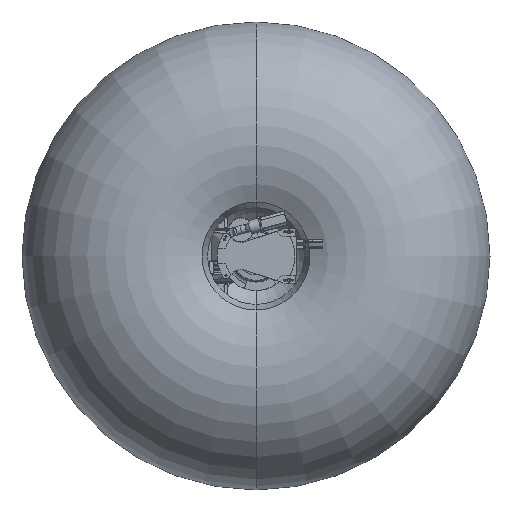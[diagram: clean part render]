
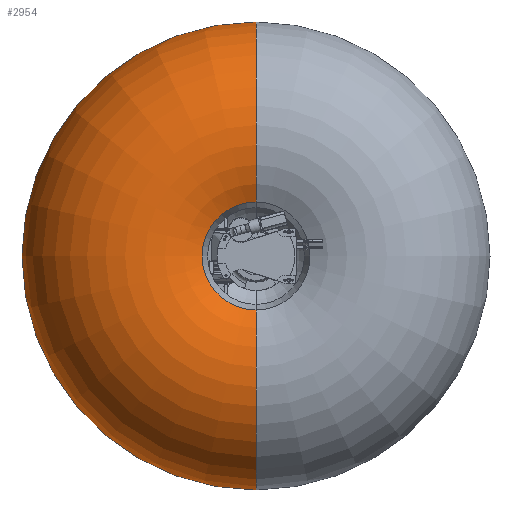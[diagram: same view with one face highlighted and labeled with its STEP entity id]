
A CAD part, front view. The second image highlights one B-rep face of the part: STEP entity #2954.
In plain terms, the highlighted toroidal (fillet/blend) face has major radius 1474.22 mm and minor radius 1535.49 mm.
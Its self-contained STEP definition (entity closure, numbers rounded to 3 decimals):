
#2911 = VERTEX_POINT ( 'NONE', #100915 ) ;
#2916 = EDGE_CURVE ( 'NONE', #2911, #2917, #101013, .T. ) ;
#2917 = VERTEX_POINT ( 'NONE', #101005 ) ;
#2952 = EDGE_CURVE ( 'NONE', #2963, #2962, #101034, .T. ) ;
#2954 = ADVANCED_FACE ( 'NONE', ( #101143 ), #101133, .T. ) ;
#2962 = VERTEX_POINT ( 'NONE', #101097 ) ;
#2963 = VERTEX_POINT ( 'NONE', #101096 ) ;
#2968 = EDGE_CURVE ( 'NONE', #2963, #2911, #101188, .T. ) ;
#2973 = EDGE_CURVE ( 'NONE', #2962, #2917, #101171, .T. ) ;
#36461 = EDGE_LOOP ( 'NONE', ( #60140, #60142, #60147, #60151 ) ) ;
#60140 = ORIENTED_EDGE ( 'NONE', *, *, #2968, .F. ) ;
#60142 = ORIENTED_EDGE ( 'NONE', *, *, #2952, .T. ) ;
#60147 = ORIENTED_EDGE ( 'NONE', *, *, #2973, .T. ) ;
#60151 = ORIENTED_EDGE ( 'NONE', *, *, #2916, .F. ) ;
#100915 = CARTESIAN_POINT ( 'NONE',  ( 0., 90.506, 691.91 ) ) ;
#101005 = CARTESIAN_POINT ( 'NONE',  ( 0., 90.506, -691.91 ) ) ;
#101007 = DIRECTION ( 'NONE',  ( 0., 0., -1. ) ) ;
#101008 = DIRECTION ( 'NONE',  ( 0., -1., 0. ) ) ;
#101010 = CARTESIAN_POINT ( 'NONE',  ( 0., 90.506, 0. ) ) ;
#101011 = AXIS2_PLACEMENT_3D ( 'NONE', #101010, #101008, #101007 ) ;
#101013 = CIRCLE ( 'NONE', #101011, 691.91 ) ;
#101034 = CIRCLE ( 'NONE', #101141, 3002.305 ) ;
#101096 = CARTESIAN_POINT ( 'NONE',  ( 0., 1261.131, 3002.305 ) ) ;
#101097 = CARTESIAN_POINT ( 'NONE',  ( 0., 1261.131, -3002.305 ) ) ;
#101130 = DIRECTION ( 'NONE',  ( 0., 0., -1. ) ) ;
#101131 = DIRECTION ( 'NONE',  ( 0., -1., 0. ) ) ;
#101132 = AXIS2_PLACEMENT_3D ( 'NONE', #101137, #101131, #101130 ) ;
#101133 = TOROIDAL_SURFACE ( 'NONE', #101132, 1474.222, 1535.489 ) ;
#101137 = CARTESIAN_POINT ( 'NONE',  ( 0., 1411.76, 0. ) ) ;
#101138 = DIRECTION ( 'NONE',  ( 0., 0., -1. ) ) ;
#101139 = DIRECTION ( 'NONE',  ( 0., -1., 0. ) ) ;
#101140 = CARTESIAN_POINT ( 'NONE',  ( 0., 1261.131, 0. ) ) ;
#101141 = AXIS2_PLACEMENT_3D ( 'NONE', #101140, #101139, #101138 ) ;
#101143 = FACE_OUTER_BOUND ( 'NONE', #36461, .T. ) ;
#101165 = DIRECTION ( 'NONE',  ( 0., 0., 1. ) ) ;
#101166 = DIRECTION ( 'NONE',  ( -1., 0., 0. ) ) ;
#101167 = CARTESIAN_POINT ( 'NONE',  ( 0., 1411.76, -1474.222 ) ) ;
#101169 = AXIS2_PLACEMENT_3D ( 'NONE', #101167, #101166, #101165 ) ;
#101171 = CIRCLE ( 'NONE', #101169, 1535.489 ) ;
#101183 = DIRECTION ( 'NONE',  ( 0., 0., -1. ) ) ;
#101184 = DIRECTION ( 'NONE',  ( 1., 0., 0. ) ) ;
#101186 = CARTESIAN_POINT ( 'NONE',  ( 0., 1411.76, 1474.222 ) ) ;
#101187 = AXIS2_PLACEMENT_3D ( 'NONE', #101186, #101184, #101183 ) ;
#101188 = CIRCLE ( 'NONE', #101187, 1535.489 ) ;
